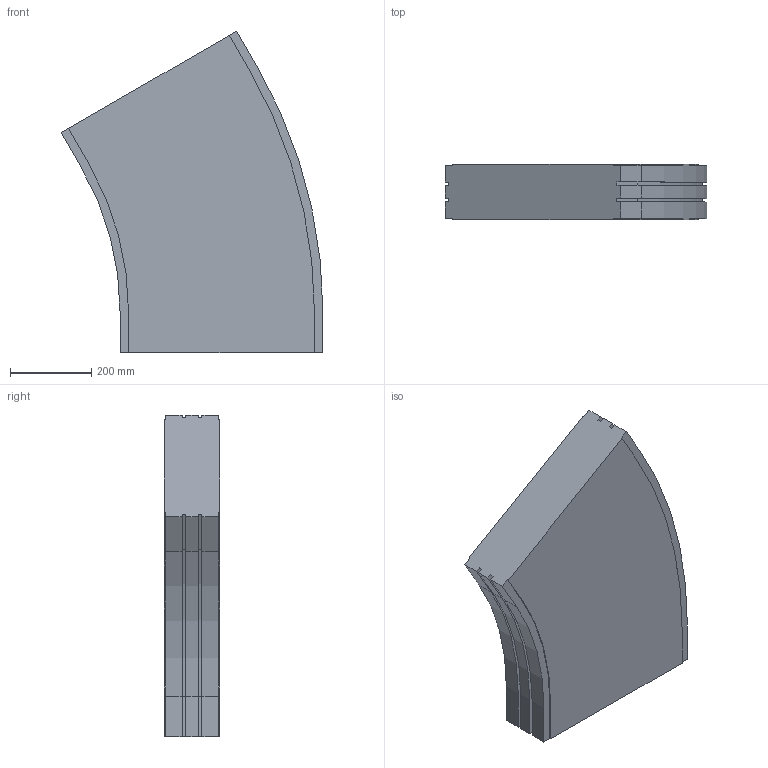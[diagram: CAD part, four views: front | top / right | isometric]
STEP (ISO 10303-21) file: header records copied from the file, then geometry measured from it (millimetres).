
FILE_DESCRIPTION (( 'STEP AP214' ), '1' );
FILE_NAME ('02.150H30.500.N FS-MTC-150 Bocht horizontaal 30°.STEP', '2013-03-29T11:18:04', ( 'Gebruiker' ), ( '' ), 'SwSTEP 2.0', 'SolidWorks 2012', '' );
FILE_SCHEMA (( 'AUTOMOTIVE_DESIGN' ));
Length unit declared in the file: millimetre
Products named in the file (1): 02.150H30.500.N FS-MTC-150 Bocht horizontaal 30°
Bounding box: 644.19 x 136 x 791.35 mm (x, y, z)
Volume: 47275319.3 mm3; surface area: 1088767.3 mm2
Topology: 1 solids, 1 shells, 58 faces, 168 edges, 112 vertices
Faces by surface type: plane 44, cylinder 14
Entity records: 1934 total; most frequent: CARTESIAN_POINT 339, ORIENTED_EDGE 336, DIRECTION 314, EDGE_CURVE 168, LINE 140, VECTOR 140, VERTEX_POINT 112, AXIS2_PLACEMENT_3D 87
